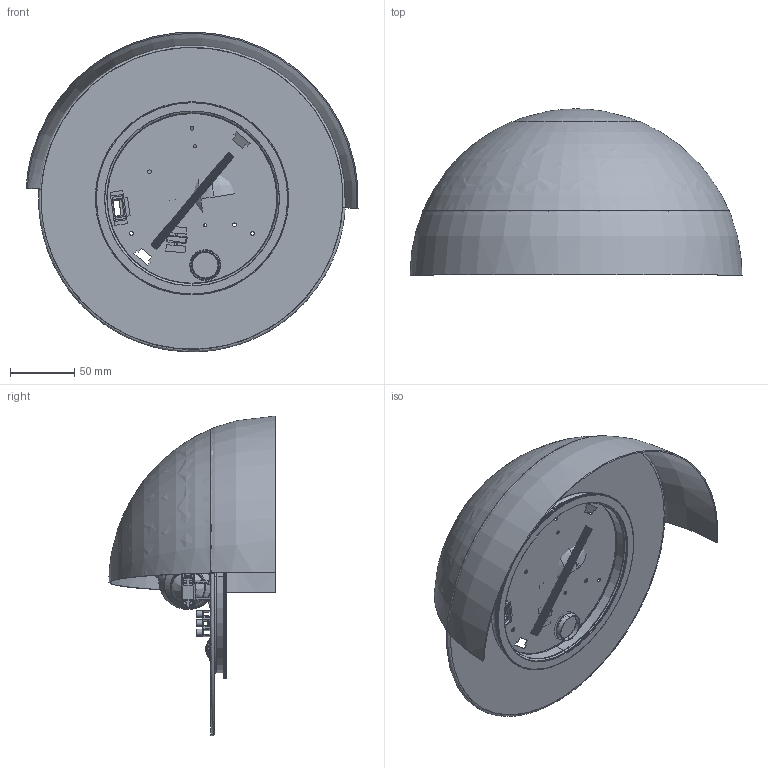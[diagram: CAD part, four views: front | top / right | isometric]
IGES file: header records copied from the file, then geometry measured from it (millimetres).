
Start section: SolidWorks IGES file using analytic representation for surfaces
Global section: file name: 6HE:\....SOLID WORKS\LAMPY\LEA\LEA.IGS; native system: SolidWorks 2016; preprocessor: SolidWorks 2016; author: ㄆkasz,; organization: 11; date: 160727.110755; units: millimetre
Bounding box: 258.45 x 129.47 x 248.93 mm (x, y, z)
Surface area: 310621 mm2 (no closed solid volume)
Topology: 0 solids, 0 shells, 405 faces, 5703 edges, 5692 vertices
Faces by surface type: bspline 260, revolution 145
